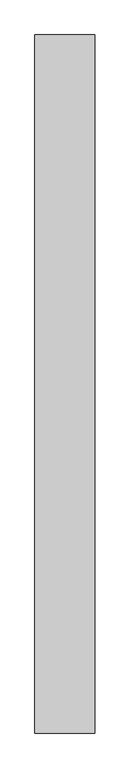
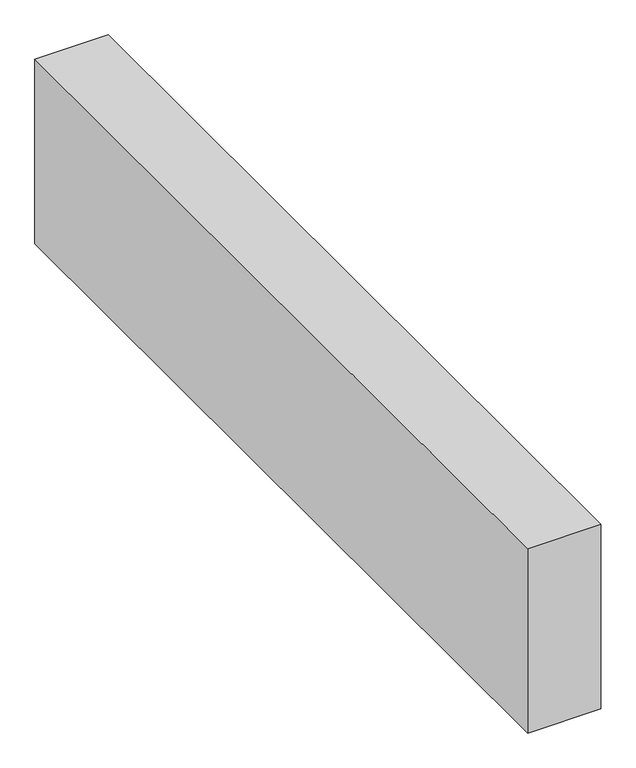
"""IFC4 building model written with IfcOpenShell, lengths in millimetres: proxy geometry."""

import ifcopenshell
import ifcopenshell.guid

model = None  # the IFC model being written
_history = None  # IfcOwnerHistory: only IFC2X3 demands one
_inside = {}  # id of a spatial element -> (the spatial element, [elements in it])
_under = {}  # id of a project, library or spatial element -> (it, [spatial elements below it])
_declared = {}  # id of a project -> (the project, [libraries it declares])
_typed = {}  # id of a type object -> (the type object, [elements of that type])
_made_of = {}  # id of a material, layer set ... -> (it, [elements and type objects made of it])


def new_model(schema):
    """Start an empty IFC model of exactly this schema.

    Asked for "IFC4X3", IfcOpenShell would pick the latest addendum, in which some entities
    have other attributes; the version numbers below select the first issue.
    IFC2X3 requires an IfcOwnerHistory on every rooted entity: one is made here for all.
    """
    global model, _history
    if schema == "IFC4X3":
        model = ifcopenshell.file(schema_version=(4, 3, 0, 0))
    else:
        model = ifcopenshell.file(schema=schema)
    _inside.clear()
    _under.clear()
    _declared.clear()
    _typed.clear()
    _made_of.clear()
    _history = None
    if model.schema == "IFC2X3":
        org = make("IfcOrganization", Name="unknown")
        user = make(
            "IfcPersonAndOrganization",
            ThePerson=make("IfcPerson", FamilyName="unknown"),
            TheOrganization=org,
        )
        app = make(
            "IfcApplication",
            ApplicationDeveloper=org,
            Version="unknown",
            ApplicationFullName="unknown",
            ApplicationIdentifier="unknown",
        )
        _history = make(
            "IfcOwnerHistory",
            OwningUser=user,
            OwningApplication=app,
            ChangeAction="ADDED",
            CreationDate=0,
        )
    return model


def make(cls, **values):
    """One entity of the class cls with the attributes given. An attribute that is None is left unset."""
    return model.create_entity(
        cls, **{name: value for name, value in values.items() if value is not None}
    )


def rooted(cls, **values):
    """An entity with a GlobalId (a new one), such as an element, a storey or a relation."""
    return make(cls, GlobalId=ifcopenshell.guid.new(), OwnerHistory=_history, **values)


def si_unit(unit_type, name, prefix=None):
    """IfcSIUnit, for example si_unit("LENGTHUNIT", "METRE", prefix="MILLI")."""
    return make("IfcSIUnit", UnitType=unit_type, Prefix=prefix, Name=name)


def assignment(units):
    """IfcUnitAssignment: the units of a project."""
    return None if units is None else make("IfcUnitAssignment", Units=units)


def point(xyz):
    """IfcCartesianPoint."""
    return None if xyz is None else make("IfcCartesianPoint", Coordinates=xyz)


def direction(xyz):
    """IfcDirection."""
    return None if xyz is None else make("IfcDirection", DirectionRatios=xyz)


def frame(location, z_axis=None, x_axis=None):
    """IfcAxis2Placement3D, a coordinate frame: its origin and axes. An axis left out is left unset."""
    return make(
        "IfcAxis2Placement3D",
        Location=point(location),
        Axis=direction(z_axis),
        RefDirection=direction(x_axis),
    )


def origin():
    """The frame at (0, 0, 0) with its axes left unset."""
    return frame((0.0, 0.0, 0.0))


def place(relative_to, where):
    """IfcLocalPlacement: puts the frame where relative to a parent placement (None: the world)."""
    return make(
        "IfcLocalPlacement", PlacementRelTo=relative_to, RelativePlacement=where
    )


def context(
    kind, dimensions, precision=None, world=None, true_north=None, identifier=None
):
    """IfcGeometricRepresentationContext, for example the 3D "Model" context."""
    return make(
        "IfcGeometricRepresentationContext",
        ContextIdentifier=identifier,
        ContextType=kind,
        CoordinateSpaceDimension=dimensions,
        Precision=precision,
        WorldCoordinateSystem=world,
        TrueNorth=true_north,
    )


def project(units=None, contexts=None):
    """IfcProject with its units and contexts."""
    return rooted(
        "IfcProject",
        Name="project",
        RepresentationContexts=contexts,
        UnitsInContext=assignment(units),
    )


def spatial(cls, under=None, at=None, **own):
    """A site, building, storey or space (cls), placed at a placement, below another one or the project."""
    s = rooted(cls, ObjectPlacement=at, **own)
    if under is not None:
        _under.setdefault(under.id(), (under, []))[1].append(s)
    return s


def polyline(points):
    """IfcPolyline through the points."""
    return make("IfcPolyline", Points=[point(p) for p in points])


def outline(outer, holes=None, kind="AREA"):
    """IfcArbitraryClosedProfileDef: a profile drawn as a closed curve; with holes, ...WithVoids."""
    if holes is None:
        return make("IfcArbitraryClosedProfileDef", ProfileType=kind, OuterCurve=outer)
    return make(
        "IfcArbitraryProfileDefWithVoids",
        ProfileType=kind,
        OuterCurve=outer,
        InnerCurves=holes,
    )


def extrude(swept, where, along, depth):
    """IfcExtrudedAreaSolid: the profile swept, set in the frame where, extruded along a direction by depth."""
    return make(
        "IfcExtrudedAreaSolid",
        SweptArea=swept,
        Position=where,
        ExtrudedDirection=direction(along),
        Depth=depth,
    )


def shape(context_of_items, identifier, shape_type, items):
    """IfcShapeRepresentation: the items that make up one representation, for example the "Body"."""
    return make(
        "IfcShapeRepresentation",
        ContextOfItems=context_of_items,
        RepresentationIdentifier=identifier,
        RepresentationType=shape_type,
        Items=items,
    )


def source(mapping_origin, context_of_items, identifier, shape_type, items):
    """IfcRepresentationMap: a shape defined once, which mapped items show again and again."""
    return make(
        "IfcRepresentationMap",
        MappingOrigin=mapping_origin,
        MappedRepresentation=shape(context_of_items, identifier, shape_type, items),
    )


def transform(
    local_origin,
    x_axis=None,
    y_axis=None,
    z_axis=None,
    scale=None,
    scale2=None,
    scale3=None,
    uniform=True,
):
    """IfcCartesianTransformationOperator3D, or its non-uniform kind. x_axis, y_axis, z_axis: its Axis1, 2, 3."""
    if uniform:
        return make(
            "IfcCartesianTransformationOperator3D",
            Axis1=direction(x_axis),
            Axis2=direction(y_axis),
            LocalOrigin=point(local_origin),
            Scale=scale,
            Axis3=direction(z_axis),
        )
    return make(
        "IfcCartesianTransformationOperator3DnonUniform",
        Axis1=direction(x_axis),
        Axis2=direction(y_axis),
        LocalOrigin=point(local_origin),
        Scale=scale,
        Axis3=direction(z_axis),
        Scale2=scale2,
        Scale3=scale3,
    )


def mapped(mapping_source, mapping_target):
    """IfcMappedItem: shows the shape of a source again, moved by a transform."""
    return make(
        "IfcMappedItem", MappingSource=mapping_source, MappingTarget=mapping_target
    )


def made_of(thing, what):
    """Note that an element or type object is made of a material, layer set ...; save() writes the relation."""
    if what is not None:
        _made_of.setdefault(what.id(), (what, []))[1].append(thing)
    return thing


def element(
    cls,
    number,
    at=None,
    inside=None,
    cuts=None,
    type_object=None,
    material=None,
    context=None,
    identifier="Body",
    shape_type=None,
    held_by="IfcProductDefinitionShape",
    body=None,
    shapes=None,
    **own,
):
    """One element of the class cls, such as IfcWall. Its Tag is "e" and its number.

    at: its placement. inside: the storey or other place that contains it. cuts: it is an
    opening in that element (IfcRelVoidsElement). A single representation is given by context,
    identifier, shape_type and body (its items); several are given by shapes. held_by: the class
    of the entity that holds the representations. save() writes the other relations.
    """
    e = rooted(cls, Tag="e%d" % number, ObjectPlacement=at, **own)
    if body is not None:
        shapes = [shape(context, identifier, shape_type, body)]
    if shapes is not None:
        e.Representation = make(held_by, Representations=shapes)
    if inside is not None:
        _inside.setdefault(inside.id(), (inside, []))[1].append(e)
    if cuts is not None:
        rooted(
            "IfcRelVoidsElement", RelatingBuildingElement=cuts, RelatedOpeningElement=e
        )
    if type_object is not None:
        _typed.setdefault(type_object.id(), (type_object, []))[1].append(e)
    return made_of(e, material)


def aggregate(whole, parts):
    """IfcRelAggregates: a whole, such as a stair, and the parts it consists of."""
    return rooted("IfcRelAggregates", RelatingObject=whole, RelatedObjects=parts)


def save(model, path):
    """Write the relations noted so far, then the file.

    IfcRelAggregates (storeys below a building ...), IfcRelContainedInSpatialStructure (elements
    in a storey), IfcRelDefinesByType, IfcRelAssociatesMaterial and IfcRelDeclares: one each for
    every whole, place, type object, material and project.
    """
    for whole, parts in _under.values():
        aggregate(whole, parts)
    for where, things in _inside.values():
        rooted(
            "IfcRelContainedInSpatialStructure",
            RelatedElements=things,
            RelatingStructure=where,
        )
    for kind, things in _typed.values():
        rooted("IfcRelDefinesByType", RelatedObjects=things, RelatingType=kind)
    for what, things in _made_of.values():
        rooted("IfcRelAssociatesMaterial", RelatedObjects=things, RelatingMaterial=what)
    for by, libraries in _declared.values():
        rooted("IfcRelDeclares", RelatingContext=by, RelatedDefinitions=libraries)
    model.write(path)


def structural_framing_80dcf587(model_context):
    return source(origin(), model_context, "Body", "SweptSolid", [
        extrude(outline(polyline([(75.0, -875.0), (-75.0, -875.0), (-75.0, 875.0), (75.0, 875.0), (75.0, -875.0)])), frame((0.0, 0.0, -400.0), z_axis=(0.0, 0.0, 1.0), x_axis=(1.0, 0.0, 0.0)), (0.0, 0.0, 1.0), 400.0),
    ])


if __name__ == "__main__":
    model = new_model("IFC4")
    model_context = context("Model", 3, world=origin())
    ifc_project = project(units=[si_unit("LENGTHUNIT", "METRE", prefix="MILLI")], contexts=[model_context])
    site = spatial("IfcSite", under=ifc_project)
    building = spatial("IfcBuilding", under=site)
    placement = place(None, origin())
    structural_framing_shape = structural_framing_80dcf587(model_context)
    element("IfcBuildingElementProxy", 1, Name="Structural Framing", at=placement, inside=building, context=model_context, shape_type="MappedRepresentation", body=[
        mapped(structural_framing_shape, transform((0.0, 0.0, 0.0), x_axis=(1.0, 0.0, 0.0), y_axis=(0.0, 1.0, 0.0), z_axis=(0.0, 0.0, 1.0))),
    ])
    save(model, "model.ifc")
